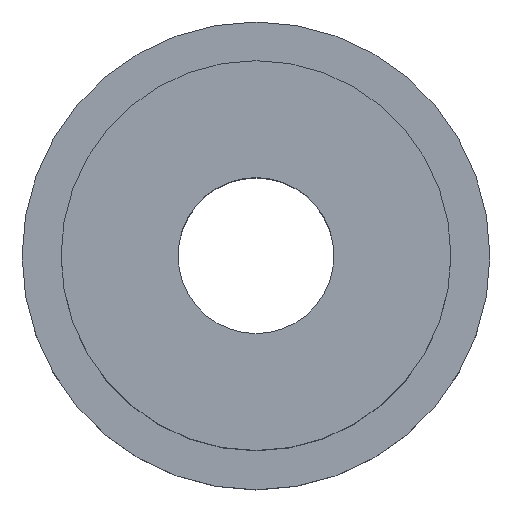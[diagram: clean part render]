
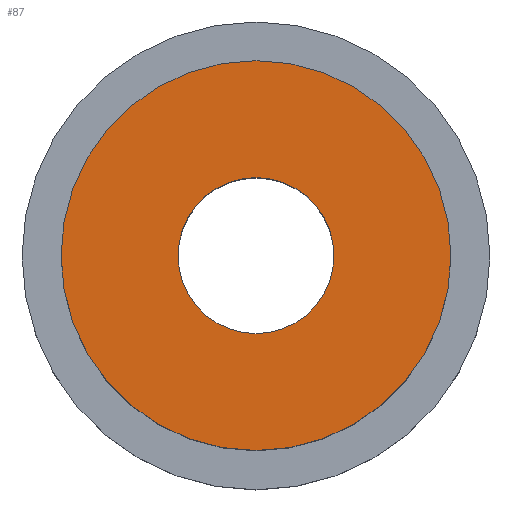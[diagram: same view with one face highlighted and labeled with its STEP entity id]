
A CAD part, top view. The second image highlights one B-rep face of the part: STEP entity #87.
In plain terms, the highlighted planar face has unit normal (0, 0, 1).
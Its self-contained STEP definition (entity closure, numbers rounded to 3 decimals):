
#16=FACE_BOUND('',#32,.T.);
#19=PLANE('',#117);
#24=FACE_OUTER_BOUND('',#31,.T.);
#31=EDGE_LOOP('',(#73));
#32=EDGE_LOOP('',(#74));
#45=CIRCLE('',#116,2.);
#46=CIRCLE('',#118,5.);
#51=VERTEX_POINT('',#162);
#52=VERTEX_POINT('',#166);
#59=EDGE_CURVE('',#51,#51,#45,.T.);
#60=EDGE_CURVE('',#52,#52,#46,.T.);
#73=ORIENTED_EDGE('',*,*,#60,.F.);
#74=ORIENTED_EDGE('',*,*,#59,.T.);
#87=ADVANCED_FACE('',(#24,#16),#19,.T.);
#116=AXIS2_PLACEMENT_3D('',#164,#138,#139);
#117=AXIS2_PLACEMENT_3D('',#165,#140,#141);
#118=AXIS2_PLACEMENT_3D('',#167,#142,#143);
#138=DIRECTION('center_axis',(0.,0.,-1.));
#139=DIRECTION('ref_axis',(1.,0.,0.));
#140=DIRECTION('center_axis',(0.,0.,1.));
#141=DIRECTION('ref_axis',(1.,0.,0.));
#142=DIRECTION('center_axis',(0.,0.,-1.));
#143=DIRECTION('ref_axis',(1.,0.,0.));
#162=CARTESIAN_POINT('',(0.,-2.,3.5));
#164=CARTESIAN_POINT('Origin',(0.,0.,3.5));
#165=CARTESIAN_POINT('Origin',(0.,5.,3.5));
#166=CARTESIAN_POINT('',(0.,-5.,3.5));
#167=CARTESIAN_POINT('Origin',(0.,0.,3.5));
